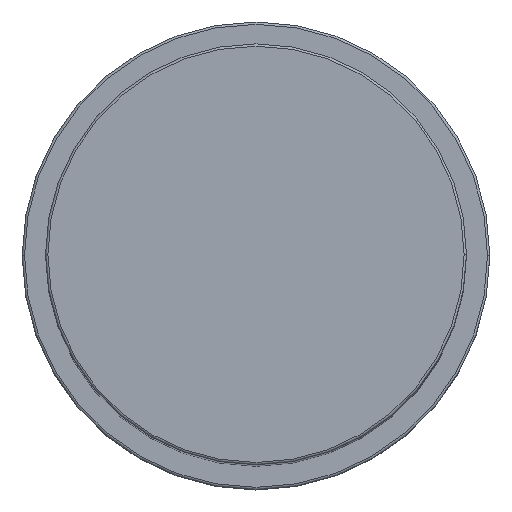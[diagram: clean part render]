
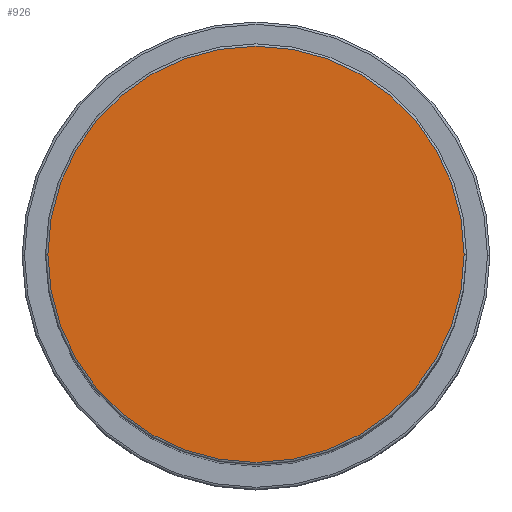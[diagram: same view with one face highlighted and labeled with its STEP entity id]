
A CAD part, top view. The second image highlights one B-rep face of the part: STEP entity #926.
In plain terms, the highlighted planar face has unit normal (0, 0, 1).
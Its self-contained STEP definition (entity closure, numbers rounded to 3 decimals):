
#393 = DIRECTION ( 'NONE',  ( 0., 0., 1. ) ) ;
#446 = DIRECTION ( 'NONE',  ( 1., 0., 0. ) ) ;
#539 = DIRECTION ( 'NONE',  ( 1., 0., 0. ) ) ;
#631 = CIRCLE ( 'NONE', #970, 44.5 ) ;
#926 = ADVANCED_FACE ( 'NONE', ( #2380 ), #2203, .T. ) ;
#970 = AXIS2_PLACEMENT_3D ( 'NONE', #7210, #393, #446 ) ;
#990 = AXIS2_PLACEMENT_3D ( 'NONE', #6184, #6130, #539 ) ;
#1219 = DIRECTION ( 'NONE',  ( 1., 0., 0. ) ) ;
#1431 = CIRCLE ( 'NONE', #6356, 44.5 ) ;
#1924 = ORIENTED_EDGE ( 'NONE', *, *, #4243, .T. ) ;
#1933 = CARTESIAN_POINT ( 'NONE',  ( 44.5, 0., 204. ) ) ;
#2194 = EDGE_CURVE ( 'NONE', #5705, #3212, #631, .T. ) ;
#2203 = PLANE ( 'NONE',  #990 ) ;
#2380 = FACE_OUTER_BOUND ( 'NONE', #5867, .T. ) ;
#2786 = CARTESIAN_POINT ( 'NONE',  ( -44.5, 0., 204. ) ) ;
#3212 = VERTEX_POINT ( 'NONE', #2786 ) ;
#4035 = ORIENTED_EDGE ( 'NONE', *, *, #2194, .T. ) ;
#4243 = EDGE_CURVE ( 'NONE', #3212, #5705, #1431, .T. ) ;
#4571 = DIRECTION ( 'NONE',  ( 0., 0., 1. ) ) ;
#5705 = VERTEX_POINT ( 'NONE', #1933 ) ;
#5757 = CARTESIAN_POINT ( 'NONE',  ( 0., 0., 204. ) ) ;
#5867 = EDGE_LOOP ( 'NONE', ( #4035, #1924 ) ) ;
#6130 = DIRECTION ( 'NONE',  ( 0., 0., 1. ) ) ;
#6184 = CARTESIAN_POINT ( 'NONE',  ( 0., 0., 204. ) ) ;
#6356 = AXIS2_PLACEMENT_3D ( 'NONE', #5757, #4571, #1219 ) ;
#7210 = CARTESIAN_POINT ( 'NONE',  ( 0., 0., 204. ) ) ;
